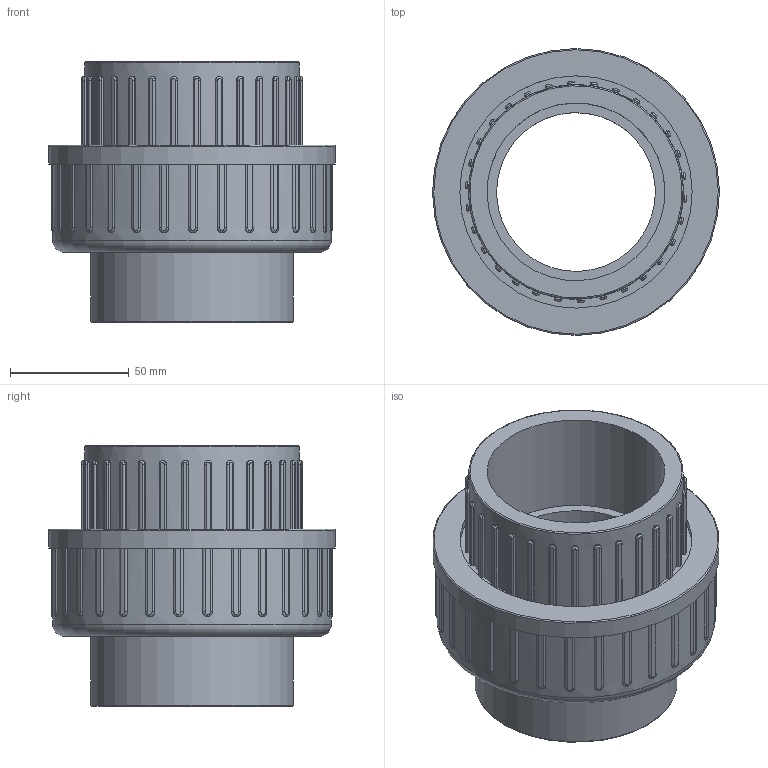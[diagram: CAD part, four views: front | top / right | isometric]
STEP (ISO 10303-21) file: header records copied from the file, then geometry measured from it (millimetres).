
FILE_DESCRIPTION(/* description */ (''),/* implementation_level */ '2;1');
FILE_NAME(/* name */ 'C:\Users\POLYPIPE\Desktop\DATASET INVENTOR\LIBRERIA EFFAST\3D_RACCORDI\RDR\3D_RDRBOD\3D_RDRBOD0750.stp',/* time_stamp */ '2018-01-22T10:25:25+01:00',/* author */ ('POLYPIPE'),/* organization */ (''),/* preprocessor_version */ 'ST-DEVELOPER v16.1',/* originating_system */ 'Autodesk Inventor 2016',/* authorisation */ '');
FILE_SCHEMA (('CONFIG_CONTROL_DESIGN'));
Length unit declared in the file: centimetre
Products named in the file (1): 3D_RDRBOD
Bounding box: 121 x 121 x 110 mm (x, y, z)
Volume: 415796 mm3; surface area: 90443.9 mm2
Topology: 1 solids, 2 shells, 388 faces, 1095 edges, 719 vertices
Faces by surface type: cylinder 162, plane 132, bspline 90, torus 4
Full cylindrical faces by diameter (mm): 67 x1, 69 x1, 75 x2, 85.3 x1, 90.5 x1, 92 x1, 97 x1, 98 x2, 117.5 x1, 121 x1
Entity records: 15327 total; most frequent: CARTESIAN_POINT 5199, ORIENTED_EDGE 2152, DIRECTION 1910, EDGE_CURVE 1076, VERTEX_POINT 716, AXIS2_PLACEMENT_3D 715, LINE 480, VECTOR 480
